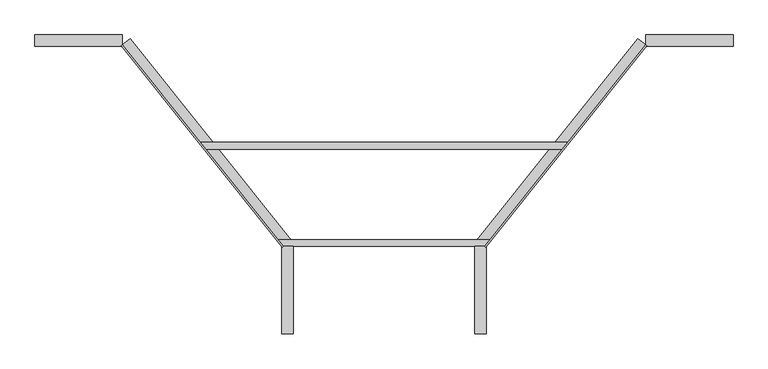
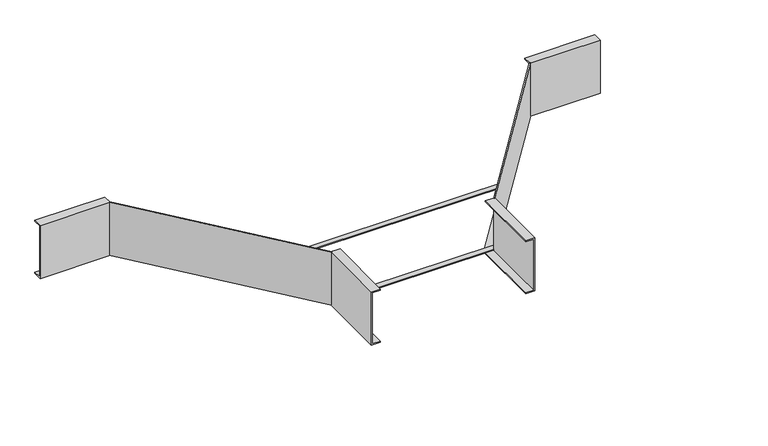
"""IFC4 building model written with IfcOpenShell, lengths in millimetres: cable carrier fitting geometry, BAKS_LDLS_TEE_Addon tee_TDSU : TDSUC_H100."""

from ifc_helpers import new_model, si_unit, frame, origin, place, context, project, spatial, polyline, outline, extrude, source, transform, mapped, element, save


def cable_carrier_fitting_e0d5d1fe(model_context):
    return source(origin(), model_context, "Body", "SweptSolid", [
        extrude(outline(polyline([(158.0, -440.0), (150.0, -450.0), (-150.0, -450.0), (-158.0, -440.0), (158.0, -440.0)])), frame((0.0, 0.0, -50.0), z_axis=(0.0, 0.0, 1.0), x_axis=(1.0, 0.0, 0.0)), (0.0, 0.0, 1.0), 2.0),
        extrude(outline(polyline([(274.0, -295.0), (266.0, -305.0), (-266.0, -305.0), (-274.0, -295.0), (274.0, -295.0)])), frame((0.0, 0.0, -50.0), z_axis=(0.0, 0.0, 1.0), x_axis=(1.0, 0.0, 0.0)), (0.0, 0.0, 1.0), 2.0),
        extrude(outline(polyline([(52.0, 2.0), (52.0, 0.0), (-50.0, 0.0), (-50.0, -15.0), (-52.0, -15.0), (-52.0, 2.0), (52.0, 2.0)])), frame((150.0, -450.0, 0.0), z_axis=(0.6246950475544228, 0.7808688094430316, 0.0), x_axis=(0.0, 0.0, 1.0)), (0.0, 0.0, 1.0), 384.1874542),
        extrude(outline(polyline([(52.0, -2.0), (-52.0, -2.0), (-52.0, 15.0), (-50.0, 15.0), (-50.0, 0.0), (52.0, 0.0), (52.0, -2.0)])), frame((-150.0, -450.0, 0.0), z_axis=(-0.6246950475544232, 0.7808688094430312, 0.0), x_axis=(0.0, 0.0, 1.0)), (0.0, 0.0, 1.0), 384.1874542),
        extrude(outline(polyline([(52.0, 135.0), (50.0, 135.0), (50.0, 150.0), (-50.0, 150.0), (-50.0, 135.0), (-52.0, 135.0), (-52.0, 152.0), (52.0, 152.0), (52.0, 135.0)])), frame((0.0, -580.0, 0.0), z_axis=(0.0, 1.0, 0.0), x_axis=(0.0, 0.0, 1.0)), (0.0, 0.0, 1.0), 130.0),
        extrude(outline(polyline([(52.0, -135.0), (52.0, -152.0), (-52.0, -152.0), (-52.0, -135.0), (-50.0, -135.0), (-50.0, -150.0), (50.0, -150.0), (50.0, -135.0), (52.0, -135.0)])), frame((0.0, -580.0, 0.0), z_axis=(0.0, 1.0, 0.0), x_axis=(0.0, 0.0, 1.0)), (0.0, 0.0, 1.0), 130.0),
        extrude(outline(polyline([(-135.0, 52.0), (-135.0, 50.0), (-150.0, 50.0), (-150.0, -50.0), (-135.0, -50.0), (-135.0, -52.0), (-152.0, -52.0), (-152.0, 52.0), (-135.0, 52.0)])), frame((390.0, 0.0, 0.0), z_axis=(1.0, 0.0, 0.0), x_axis=(0.0, 1.0, 0.0)), (0.0, 0.0, 1.0), 130.0),
        extrude(outline(polyline([(-135.0, 52.0), (-135.0, 50.0), (-150.0, 50.0), (-150.0, -50.0), (-135.0, -50.0), (-135.0, -52.0), (-152.0, -52.0), (-152.0, 52.0), (-135.0, 52.0)])), frame((-520.0, 0.0, 0.0), z_axis=(1.0, 0.0, 0.0), x_axis=(0.0, 1.0, 0.0)), (0.0, 0.0, 1.0), 130.0),
    ])


if __name__ == "__main__":
    model = new_model("IFC4")
    model_context = context("Model", 3, world=origin())
    ifc_project = project(units=[si_unit("LENGTHUNIT", "METRE", prefix="MILLI")], contexts=[model_context])
    site = spatial("IfcSite", under=ifc_project)
    building = spatial("IfcBuilding", under=site)
    placement = place(None, origin())
    cable_carrier_fitting_shape = cable_carrier_fitting_e0d5d1fe(model_context)
    element("IfcCableCarrierFitting", 1, ObjectType="BAKS_LDLS_TEE_Addon tee_TDSU : TDSUC_H100", at=placement, inside=building, context=model_context, shape_type="MappedRepresentation", body=[
        mapped(cable_carrier_fitting_shape, transform((0.0, 0.0, 0.0), x_axis=(1.0, 0.0, 0.0), y_axis=(0.0, 1.0, 0.0), z_axis=(0.0, 0.0, 1.0))),
    ])
    save(model, "model.ifc")
